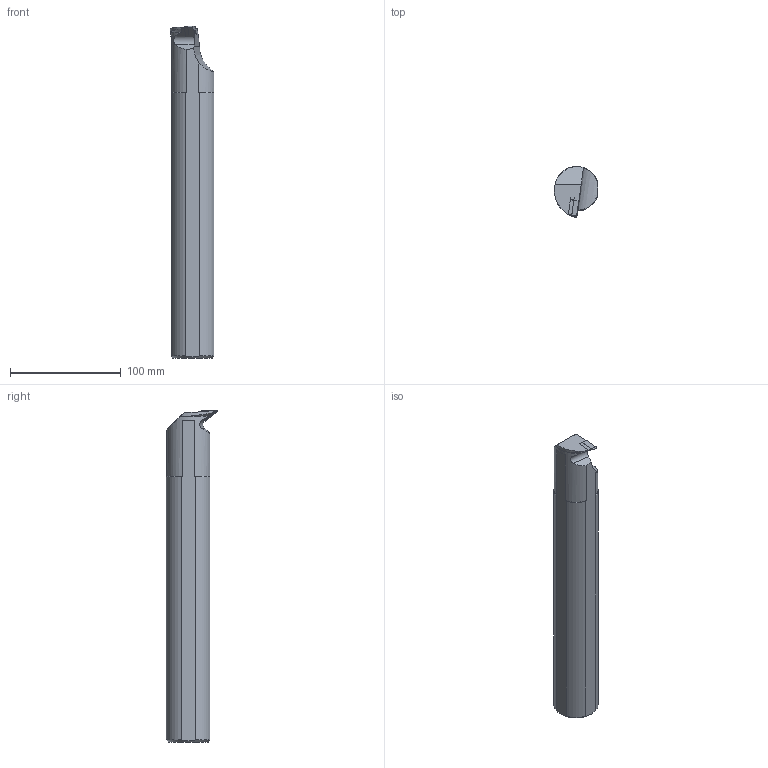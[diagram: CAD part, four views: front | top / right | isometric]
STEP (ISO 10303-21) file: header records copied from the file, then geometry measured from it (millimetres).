
FILE_DESCRIPTION(/* description */ (''),/* implementation_level */ '2;1');
FILE_NAME(/* name */ 'S40T-SVUBR-16-HAAS-.stp',/* time_stamp */ '2021-09-28T12:15:39+09:00',/* author */ (''),/* organization */ (''),/* preprocessor_version */ 'ST-DEVELOPER v11',/* originating_system */ 'SIEMENS UGS NX 6.0',/* authorisation */ '');
FILE_SCHEMA (('CONFIG_CONTROL_DESIGN'));
Length unit declared in the file: millimetre
Products named in the file (1): user19614c3m
Bounding box: 39.12 x 46.08 x 299.94 mm (x, y, z)
Volume: 348477.7 mm3; surface area: 39546.8 mm2
Topology: 3 solids, 3 shells, 43 faces, 112 edges, 75 vertices
Faces by surface type: plane 22, cylinder 13, cone 7, bspline 1
Full cylindrical faces by diameter (mm): 4.4 x1, 5.4 x1
Entity records: 1483 total; most frequent: CARTESIAN_POINT 362, ORIENTED_EDGE 212, DIRECTION 212, EDGE_CURVE 106, AXIS2_PLACEMENT_3D 79, VERTEX_POINT 72, LINE 54, VECTOR 54
